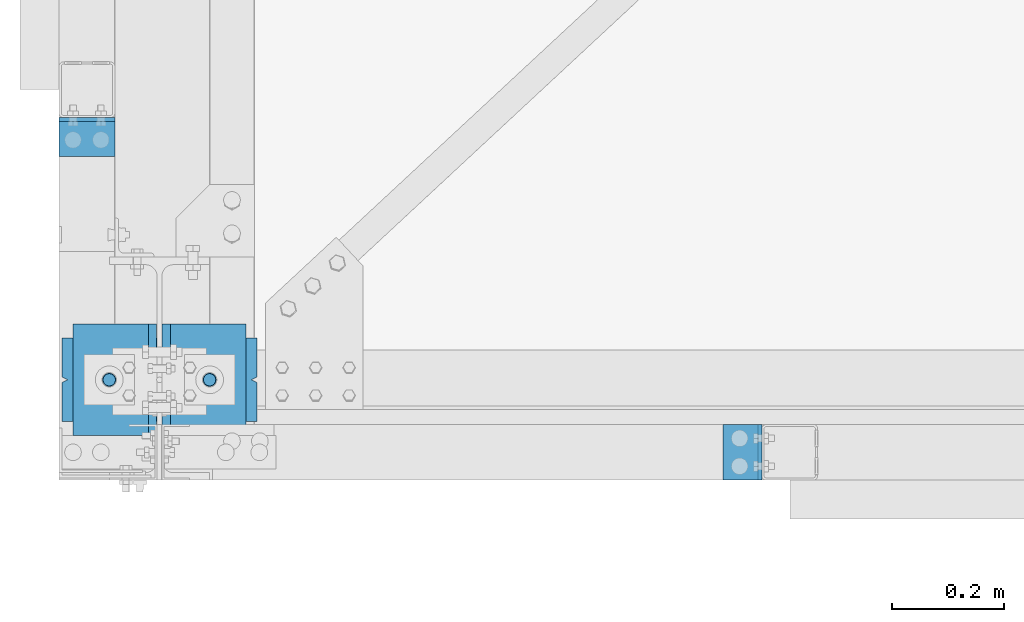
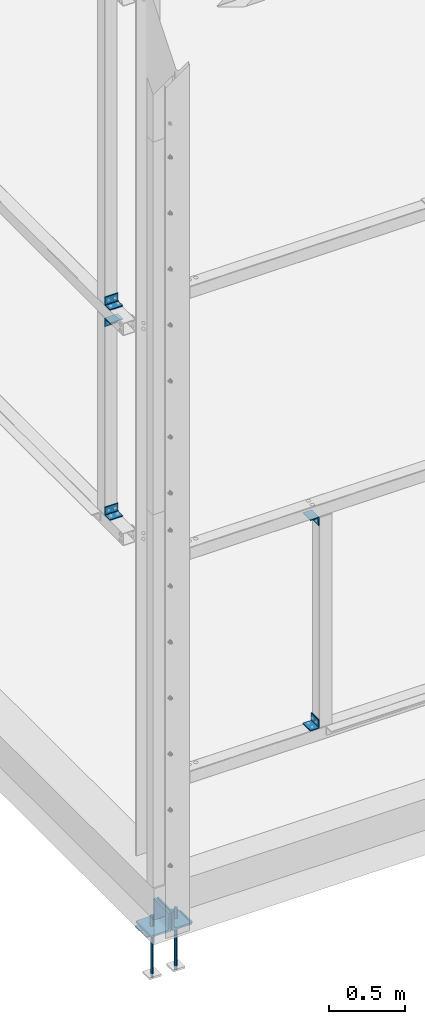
# One storey, part 61 of 362: 12 beams, 8 elements without a shape of their own.
"""IFC2X3 building model written with IfcOpenShell, lengths in millimetres."""

from ifc_helpers import new_model, si_unit, frame, origin_with_axes, origin_2d_with_axis, place, context, subcontext, project, spatial, polyline, rectangle, circle, l_section, outline, extrude, boolean, material, type_object, element, aggregate, save


model = new_model("IFC2X3")

# Units and contexts
model_context = context("Model", 3, precision=1e-05, world=origin_with_axes())
body_context = subcontext(model_context, "Body", "Model", "MODEL_VIEW")
ifc_project = project(units=[si_unit("LENGTHUNIT", "METRE", prefix="MILLI"), si_unit("AREAUNIT", "SQUARE_METRE"), si_unit("VOLUMEUNIT", "CUBIC_METRE"), si_unit("MASSUNIT", "GRAM", prefix="KILO"), si_unit("TIMEUNIT", "SECOND"), si_unit("PLANEANGLEUNIT", "RADIAN"), si_unit("SOLIDANGLEUNIT", "STERADIAN"), si_unit("THERMODYNAMICTEMPERATUREUNIT", "DEGREE_CELSIUS"), si_unit("LUMINOUSINTENSITYUNIT", "LUMEN")], contexts=[model_context])

# Site, building, storey
site_placement = place(None, origin_with_axes())
site = spatial("IfcSite", under=ifc_project, at=site_placement, Name="Undefined", CompositionType="ELEMENT")
building_placement = place(site_placement, origin_with_axes())
building = spatial("IfcBuilding", under=site, at=building_placement, Name="Undefined", CompositionType="ELEMENT")
storey_placement = place(building_placement, origin_with_axes())
storey = spatial("IfcBuildingStorey", under=building, at=storey_placement, Name="Undefined", CompositionType="ELEMENT", Elevation=0.0)

# Assembly, beam
assembly_1_placement = place(storey_placement, origin_with_axes())
assembly_1 = element("IfcElementAssembly", 1, at=assembly_1_placement, inside=storey, AssemblyPlace="NOTDEFINED", PredefinedType="NOTDEFINED")
ifc_material = material(Name="Undefined/S235-E24")
beam_type_1 = type_object("IfcBeamType", Name="L70*7", PredefinedType="NOTDEFINED")
beam_1_placement = place(assembly_1_placement, frame((-80.0000075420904, 434.993396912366, 4584.99997777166), z_axis=(0.0, -1.0, 0.0), x_axis=(-1.0, 0.0, 0.0)))
beam_1 = element("IfcBeam", 2, at=beam_1_placement, type_object=beam_type_1, material=ifc_material, Name="ATTACHE", ObjectType="L70*7", context=body_context, shape_type="SweptSolid", body=[
    extrude(l_section(Depth=70.0, Width=70.0, Thickness=7.0, FilletRadius=9.0, EdgeRadius=4.5, at=origin_2d_with_axis()), frame((99.9999999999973, -1.63709046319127e-11, 7.73070496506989e-12), z_axis=(-1.0, 0.0, 0.0), x_axis=(0.0, -1.0, 0.0)), (0.0, 0.0, 1.0), 100.0),
])
aggregate(assembly_1, [beam_1])

assembly_2_placement = place(storey_placement, origin_with_axes())
assembly_2 = element("IfcElementAssembly", 3, at=assembly_2_placement, inside=storey, AssemblyPlace="NOTDEFINED", PredefinedType="NOTDEFINED")
beam_2_placement = place(assembly_2_placement, frame((-80.0000075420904, 434.993383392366, 2894.99997765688), z_axis=(0.0, -1.0, 0.0), x_axis=(-1.0, 0.0, 0.0)))
beam_2 = element("IfcBeam", 4, at=beam_2_placement, type_object=beam_type_1, material=ifc_material, Name="ATTACHE", ObjectType="L70*7", context=body_context, shape_type="SweptSolid", body=[
    extrude(l_section(Depth=70.0, Width=70.0, Thickness=7.0, FilletRadius=9.0, EdgeRadius=4.5, at=origin_2d_with_axis()), frame((99.9999999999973, -1.63709046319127e-11, 7.73070496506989e-12), z_axis=(-1.0, 0.0, 0.0), x_axis=(0.0, -1.0, 0.0)), (0.0, 0.0, 1.0), 100.0),
])
aggregate(assembly_2, [beam_2])

assembly_3_placement = place(storey_placement, origin_with_axes())
assembly_3 = element("IfcElementAssembly", 5, at=assembly_3_placement, inside=storey, AssemblyPlace="NOTDEFINED", PredefinedType="NOTDEFINED")
beam_3_placement = place(assembly_3_placement, frame((-179.999995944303, 434.993382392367, 4415.00002234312), z_axis=(0.0, -1.0, 0.0), x_axis=(1.0, 0.0, 0.0)))
beam_3 = element("IfcBeam", 6, at=beam_3_placement, type_object=beam_type_1, material=ifc_material, Name="ATTACHE", ObjectType="L70*7", context=body_context, shape_type="SweptSolid", body=[
    extrude(l_section(Depth=70.0, Width=70.0, Thickness=7.0, FilletRadius=9.0, EdgeRadius=4.5, at=origin_2d_with_axis()), frame((99.9999999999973, -1.63709046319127e-11, 7.73070496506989e-12), z_axis=(-1.0, 0.0, 0.0), x_axis=(0.0, -1.0, 0.0)), (0.0, 0.0, 1.0), 100.0),
])
aggregate(assembly_3, [beam_3])

assembly_4_placement = place(storey_placement, origin_with_axes())
assembly_4 = element("IfcElementAssembly", 7, at=assembly_4_placement, inside=storey, AssemblyPlace="NOTDEFINED", PredefinedType="NOTDEFINED")
beam_4_placement = place(assembly_4_placement, frame((1045.000000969, -180.000008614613, 2765.0), z_axis=(0.0, 0.0, -1.0), x_axis=(0.0, 1.0, 0.0)))
beam_4 = element("IfcBeam", 8, at=beam_4_placement, type_object=beam_type_1, material=ifc_material, Name="ATTACHE", ObjectType="L70*7", context=body_context, shape_type="SweptSolid", body=[
    extrude(l_section(Depth=70.0, Width=70.0, Thickness=7.0, FilletRadius=9.0, EdgeRadius=4.5, at=origin_2d_with_axis()), frame((99.9999999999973, -1.63709046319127e-11, 7.73070496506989e-12), z_axis=(-1.0, 0.0, 0.0), x_axis=(0.0, -1.0, 0.0)), (0.0, 0.0, 1.0), 100.0),
])
aggregate(assembly_4, [beam_4])

assembly_5_placement = place(storey_placement, origin_with_axes())
assembly_5 = element("IfcElementAssembly", 9, at=assembly_5_placement, inside=storey, AssemblyPlace="NOTDEFINED", PredefinedType="NOTDEFINED")
beam_5_placement = place(assembly_5_placement, frame((1044.999999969, -80.0000086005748, 1135.0), z_axis=(0.0, 0.0, 1.0), x_axis=(0.0, -1.0, 0.0)))
beam_5 = element("IfcBeam", 10, at=beam_5_placement, type_object=beam_type_1, material=ifc_material, Name="ATTACHE", ObjectType="L70*7", context=body_context, shape_type="SweptSolid", body=[
    extrude(l_section(Depth=70.0, Width=70.0, Thickness=7.0, FilletRadius=9.0, EdgeRadius=4.5, at=origin_2d_with_axis()), frame((99.9999999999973, -1.63709046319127e-11, 7.73070496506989e-12), z_axis=(-1.0, 0.0, 0.0), x_axis=(0.0, -1.0, 0.0)), (0.0, 0.0, 1.0), 100.0),
])
aggregate(assembly_5, [beam_5])

# Assembly, beams
assembly_6_placement = place(storey_placement, origin_with_axes())
assembly_6 = element("IfcElementAssembly", 11, at=assembly_6_placement, inside=storey, Name="PRESCELLEMENT PS24", AssemblyPlace="NOTDEFINED", PredefinedType="NOTDEFINED")
beam_type_2 = type_object("IfcBeamType", Name="D24", PredefinedType="NOTDEFINED")
beam_6_placement = place(assembly_6_placement, frame((-90.0028495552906, 0.0, -100.0), z_axis=(0.0, 1.0, 0.0), x_axis=(0.0, 0.0, -1.0)))
beam_6 = element("IfcBeam", 12, at=beam_6_placement, type_object=beam_type_2, material=ifc_material, Name="TIGE D'ANCRAGE", ObjectType="D24", context=body_context, shape_type="SweptSolid", body=[
    extrude(circle(Radius=12.0, at=origin_2d_with_axis()), frame((150.0, 0.0, 0.0), z_axis=(-1.0, 0.0, 0.0), x_axis=(0.0, -1.0, 0.0)), (0.0, 0.0, 1.0), 150.0),
])
beam_7_placement = place(assembly_6_placement, frame((89.9971504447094, 0.0, -100.0), z_axis=(0.0, 1.0, 0.0), x_axis=(0.0, 0.0, -1.0)))
beam_7 = element("IfcBeam", 13, at=beam_7_placement, type_object=beam_type_2, material=ifc_material, Name="TIGE D'ANCRAGE", ObjectType="D24", context=body_context, shape_type="SweptSolid", body=[
    extrude(circle(Radius=12.0, at=origin_2d_with_axis()), frame((150.0, 0.0, 0.0), z_axis=(-1.0, 0.0, 0.0), x_axis=(0.0, -1.0, 0.0)), (0.0, 0.0, 1.0), 150.0),
])
beam_type_3 = type_object("IfcBeamType", Name="D22", PredefinedType="NOTDEFINED")
beam_8_placement = place(assembly_6_placement, frame((-90.0028495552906, 0.0, -250.0), z_axis=(0.0, 1.0, 0.0), x_axis=(0.0, 0.0, -1.0)))
beam_8 = element("IfcBeam", 14, at=beam_8_placement, type_object=beam_type_3, material=ifc_material, Name="TIGE D'ANCRAGE", ObjectType="D22", context=body_context, shape_type="SweptSolid", body=[
    extrude(circle(Radius=11.0, at=origin_2d_with_axis()), frame((350.0, 0.0, 0.0), z_axis=(-1.0, 0.0, 0.0), x_axis=(0.0, -1.0, 0.0)), (0.0, 0.0, 1.0), 350.0),
])
beam_9_placement = place(assembly_6_placement, frame((89.9971504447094, 0.0, -250.0), z_axis=(0.0, 1.0, 0.0), x_axis=(0.0, 0.0, -1.0)))
beam_9 = element("IfcBeam", 15, at=beam_9_placement, type_object=beam_type_3, material=ifc_material, Name="TIGE D'ANCRAGE", ObjectType="D22", context=body_context, shape_type="SweptSolid", body=[
    extrude(circle(Radius=11.0, at=origin_2d_with_axis()), frame((350.0, 0.0, 0.0), z_axis=(-1.0, 0.0, 0.0), x_axis=(0.0, -1.0, 0.0)), (0.0, 0.0, 1.0), 350.0),
])
beam_type_4 = type_object("IfcBeamType", Name="PL10*150", PredefinedType="NOTDEFINED")
beam_10_placement = place(assembly_6_placement, frame((175.0, 0.0, -205.0), z_axis=(0.0, -1.0, 0.0), x_axis=(-1.0, 0.0, 0.0)))
beam_10 = element("IfcBeam", 16, at=beam_10_placement, type_object=beam_type_4, material=ifc_material, Name="PRESCELLEMENT PS24", ObjectType="PL10*150", context=body_context, shape_type="CSG", body=[
    boolean("DIFFERENCE", boolean("DIFFERENCE", boolean("DIFFERENCE", boolean("DIFFERENCE", extrude(rectangle(XDim=10.0, YDim=150.0, at=origin_2d_with_axis()), frame((350.0, 0.0, 0.0), z_axis=(-1.0, 0.0, 0.0), x_axis=(0.0, -1.0, 0.0)), (0.0, 0.0, 1.0), 350.0), extrude(outline(polyline([(0.0, 0.0), (11.1803398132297, 1.2732925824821e-11), (4.47213602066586, 8.94427204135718), (0.0, 0.0)])), frame((0.0, 7.5, -5.0), z_axis=(0.0, -1.0, 0.0), x_axis=(0.894427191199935, 0.0, 0.44721359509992)), (0.0, 0.0, 1.0), 15.0)), extrude(outline(polyline([(0.0, 0.0), (11.1803398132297, 1.2732925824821e-11), (4.47213602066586, 8.94427204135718), (0.0, 0.0)])), frame((180.0, 7.5, -75.0), z_axis=(0.0, -1.0, 0.0), x_axis=(-0.447213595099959, 0.0, 0.894427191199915)), (0.0, 0.0, 1.0), 15.0)), extrude(outline(polyline([(0.0, 0.0), (11.1803398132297, 1.2732925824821e-11), (6.70820379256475, 8.94427204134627), (0.0, 0.0)])), frame((340.0, 7.5, 0.0), z_axis=(0.0, -1.0, 0.0), x_axis=(0.894427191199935, 0.0, -0.44721359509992)), (0.0, 0.0, 1.0), 15.0)), extrude(outline(polyline([(0.0, 0.0), (11.1803398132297, 1.2732925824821e-11), (4.47213602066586, 8.94427204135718), (0.0, 0.0)])), frame((170.0, 7.5, 75.0), z_axis=(0.0, -1.0, 0.0), x_axis=(0.447213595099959, 0.0, -0.894427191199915)), (0.0, 0.0, 1.0), 15.0)),
])
aggregate(assembly_6, [beam_6, beam_8, beam_7, beam_9, beam_10])

# Assembly, beam
assembly_7_placement = place(storey_placement, origin_with_axes())
assembly_7 = element("IfcElementAssembly", 17, at=assembly_7_placement, inside=storey, AssemblyPlace="NOTDEFINED", PredefinedType="NOTDEFINED")
beam_type_5 = type_object("IfcBeamType", Name="L150*15", PredefinedType="NOTDEFINED")
beam_11_placement = place(assembly_7_placement, frame((-80.0028495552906, 100.0, -125.0), z_axis=(0.0, 0.0, 1.0), x_axis=(0.0, -1.0, 0.0)))
beam_11 = element("IfcBeam", 18, at=beam_11_placement, type_object=beam_type_5, material=ifc_material, Name="ATTACHE", ObjectType="L150*15", context=body_context, shape_type="SweptSolid", body=[
    extrude(l_section(Depth=150.0, Width=150.0, Thickness=15.0, FilletRadius=16.0, EdgeRadius=8.0, at=origin_2d_with_axis()), frame((200.0, 0.0, 0.0), z_axis=(-1.0, 0.0, 0.0), x_axis=(0.0, -1.0, 0.0)), (0.0, 0.0, 1.0), 200.0),
])
aggregate(assembly_7, [beam_11])

assembly_8_placement = place(storey_placement, origin_with_axes())
assembly_8 = element("IfcElementAssembly", 19, at=assembly_8_placement, inside=storey, AssemblyPlace="NOTDEFINED", PredefinedType="NOTDEFINED")
beam_12_placement = place(assembly_8_placement, frame((79.9971504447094, -100.0, -125.0), z_axis=(0.0, 0.0, 1.0), x_axis=(0.0, 1.0, 0.0)))
beam_12 = element("IfcBeam", 20, at=beam_12_placement, type_object=beam_type_5, material=ifc_material, Name="ATTACHE", ObjectType="L150*15", context=body_context, shape_type="SweptSolid", body=[
    extrude(l_section(Depth=150.0, Width=150.0, Thickness=15.0, FilletRadius=16.0, EdgeRadius=8.0, at=origin_2d_with_axis()), frame((200.0, 0.0, 0.0), z_axis=(-1.0, 0.0, 0.0), x_axis=(0.0, -1.0, 0.0)), (0.0, 0.0, 1.0), 200.0),
])
aggregate(assembly_8, [beam_12])

save(model, "model.ifc")
